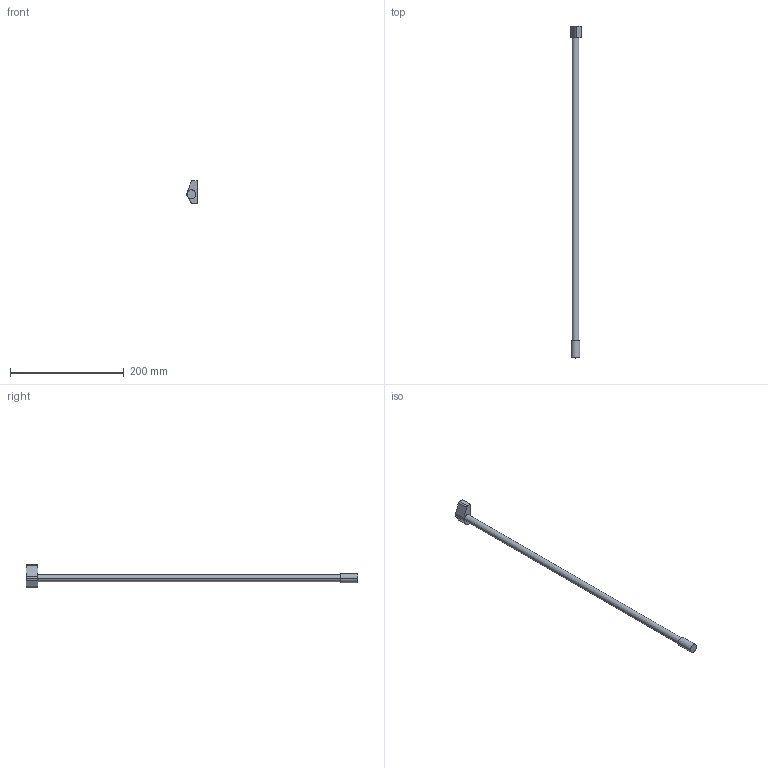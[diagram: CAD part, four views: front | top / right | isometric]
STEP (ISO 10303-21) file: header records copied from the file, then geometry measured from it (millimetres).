
FILE_DESCRIPTION (( 'STEP AP214' ), '1' );
FILE_NAME ('DWD-XP-Anschraubreling _NL-600_links.step', '2010-09-27T06:30:51', ( 'grass' ), ( '' ), 'SwSTEP 2.0', 'SolidWorks 2010', '' );
FILE_SCHEMA (( 'AUTOMOTIVE_DESIGN' ));
Length unit declared in the file: millimetre
Products named in the file (1): DWD-XP-Anschraubreling _NL-600_links
Bounding box: 18 x 584.3 x 40.1 mm (x, y, z)
Volume: 77633.6 mm3; surface area: 24961.9 mm2
Topology: 1 solids, 1 shells, 17 faces, 39 edges, 26 vertices
Faces by surface type: plane 9, cylinder 8
Entity records: 523 total; most frequent: DIRECTION 91, CARTESIAN_POINT 83, ORIENTED_EDGE 78, EDGE_CURVE 39, AXIS2_PLACEMENT_3D 34, VERTEX_POINT 26, VECTOR 23, LINE 23
